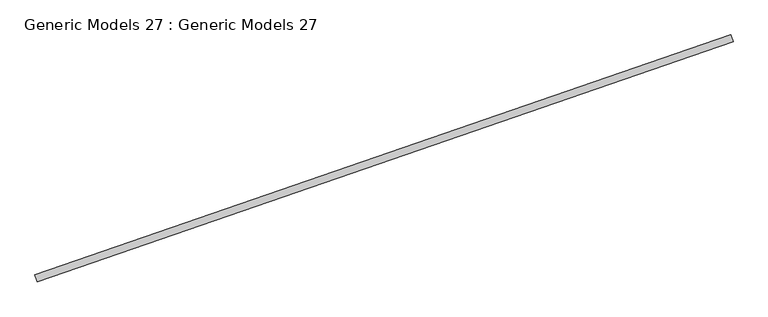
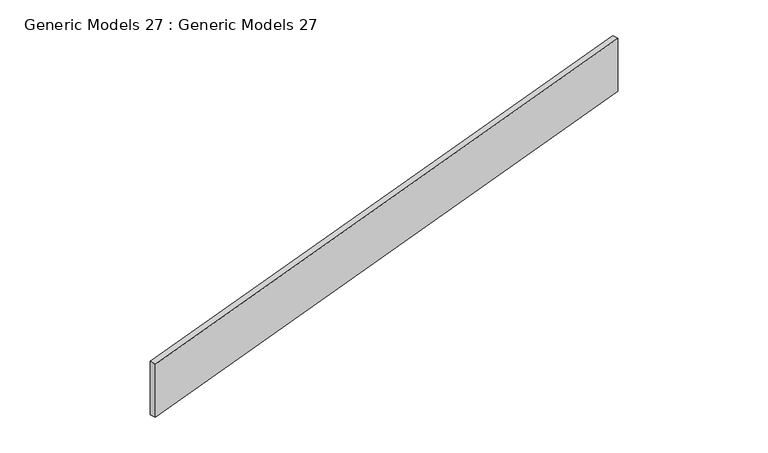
"""IFC4 building model written with IfcOpenShell, lengths in millimetres: proxy geometry, Generic Models 27 : Generic Models 27."""

from ifc_helpers import new_model, si_unit, frame, origin, place, context, project, spatial, polyline, outline, extrude, source, transform, mapped, element, save


def generic_models_27_generic_models_27_2a54866c(model_context):
    return source(origin(), model_context, "Body", "SweptSolid", [
        extrude(outline(polyline([(-1599.5183865, 0.0), (-1900.0, -8604.6675897), (-2692.0466161, -8604.6675897), (-2391.5650026, 0.0), (-1599.5183865, 0.0)])), frame((471522.9002228, -4658.8122338, 3900.0), z_axis=(-0.3264644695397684, 0.9452094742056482, 0.0), x_axis=(0.0, 0.0, 1.0)), (0.0, 0.0, 1.0), 86.5919166),
    ])


if __name__ == "__main__":
    model = new_model("IFC4")
    model_context = context("Model", 3, world=origin())
    ifc_project = project(units=[si_unit("LENGTHUNIT", "METRE", prefix="MILLI")], contexts=[model_context])
    site = spatial("IfcSite", under=ifc_project)
    building = spatial("IfcBuilding", under=site)
    placement = place(None, origin())
    generic_models_27_generic_models_27_shape = generic_models_27_generic_models_27_2a54866c(model_context)
    element("IfcBuildingElementProxy", 1, Name="Generic Models 27 : Generic Models 27", ObjectType="Generic Models 27 : Generic Models 27", at=placement, inside=building, context=model_context, shape_type="MappedRepresentation", body=[
        mapped(generic_models_27_generic_models_27_shape, transform((0.0, 0.0, 0.0), x_axis=(1.0, 0.0, 0.0), y_axis=(0.0, 1.0, 0.0), z_axis=(0.0, 0.0, 1.0))),
    ])
    save(model, "model.ifc")
